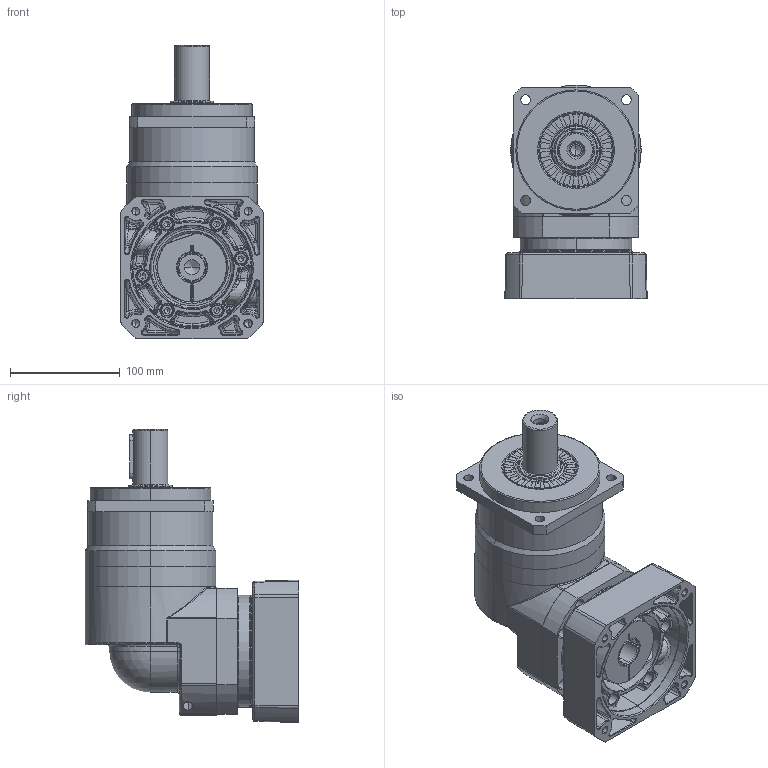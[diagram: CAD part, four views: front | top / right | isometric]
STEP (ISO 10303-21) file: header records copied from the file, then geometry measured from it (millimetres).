
FILE_DESCRIPTION (( 'STEP AP214' ), '1' );
FILE_NAME ('EVB115-L1-S2-P1 24-110-145-M8-64.STEP', '2025-01-04T02:01:39', ( '微软用户' ), ( '微软中国' ), 'SwSTEP 2.0', 'SolidWorks 2021', '' );
FILE_SCHEMA (( 'AUTOMOTIVE_DESIGN' ));
Length unit declared in the file: millimetre
Products named in the file (4): EVB115-L1-S2-P1 24-110-145-M8-64; 11-EVT110F眻褒眊极_stp_stp.stp; EVB115D-L1-S1-24-110-145-M8-64; EVT110D-L1-10-110-145-M8-64
Assembly tree (6 placements, depth 2):
  EVB115-L1-S2-P1 24-110-145-M8-64
    EVB115D-L1-S1-24-110-145-M8-64
    11-EVT110F眻褒眊极_stp_stp.stp
    EVT110D-L1-10-110-145-M8-64  x4
Bounding box: 130 x 195 x 267.5 mm (x, y, z)
Volume: 485349.3 mm3; surface area: 381766.7 mm2
Topology: 1 solids, 36 shells, 1792 faces, 4272 edges, 2573 vertices
Faces by surface type: plane 481, bspline 470, cylinder 444, cone 247, torus 112, sphere 38
Entity records: 91491 total; most frequent: CARTESIAN_POINT 37035, ORIENTED_EDGE 7869, DIRECTION 6626, EDGE_CURVE 3977, AXIS2_PLACEMENT_3D 2714, VERTEX_POINT 2443, EDGE_LOOP 1904, UNCERTAINTY_MEASURE_WITH_UNIT 1729
